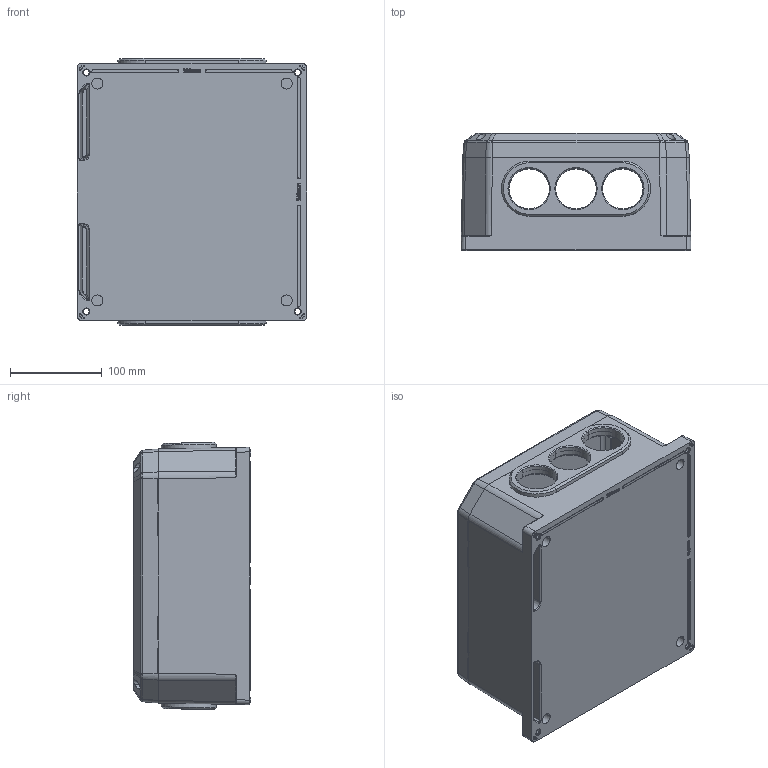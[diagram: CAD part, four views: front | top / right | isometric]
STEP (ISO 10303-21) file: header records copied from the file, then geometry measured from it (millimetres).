
FILE_DESCRIPTION (( 'STEP AP214' ), '1' );
FILE_NAME ('AF-BCR-5-3L-44.STEP', '2025-04-11T06:31:52', ( '' ), ( '' ), 'SwSTEP 2.0', 'SolidWorks 2025', '' );
FILE_SCHEMA (( 'AUTOMOTIVE_DESIGN' ));
Length unit declared in the file: millimetre
Products named in the file (6): Gehäuse^AF-BCR-5-3L-44; Lid#Robust-282513; Base#Robust-282513; Endkappen^AF-BCR-5-3L-44; Endkappe^Endkappen_AF-BCR-5-3L-44; AF-BCR-5-3L-44
Assembly tree (6 placements, depth 3):
  AF-BCR-5-3L-44
    Gehäuse^AF-BCR-5-3L-44
      Lid#Robust-282513
      Base#Robust-282513
    Endkappen^AF-BCR-5-3L-44
      Endkappe^Endkappen_AF-BCR-5-3L-44  x2
Bounding box: 250 x 127.8 x 290.65 mm (x, y, z)
Volume: 1468772.6 mm3; surface area: 587945.7 mm2
Topology: 4 solids, 4 shells, 1778 faces, 4426 edges, 2689 vertices
Faces by surface type: cylinder 493, plane 444, bspline 309, torus 267, cone 249, sphere 16
Entity records: 63262 total; most frequent: CARTESIAN_POINT 24326, ORIENTED_EDGE 8624, DIRECTION 7716, EDGE_CURVE 4312, AXIS2_PLACEMENT_3D 3030, VERTEX_POINT 2647, EDGE_LOOP 1857, FACE_OUTER_BOUND 1747
